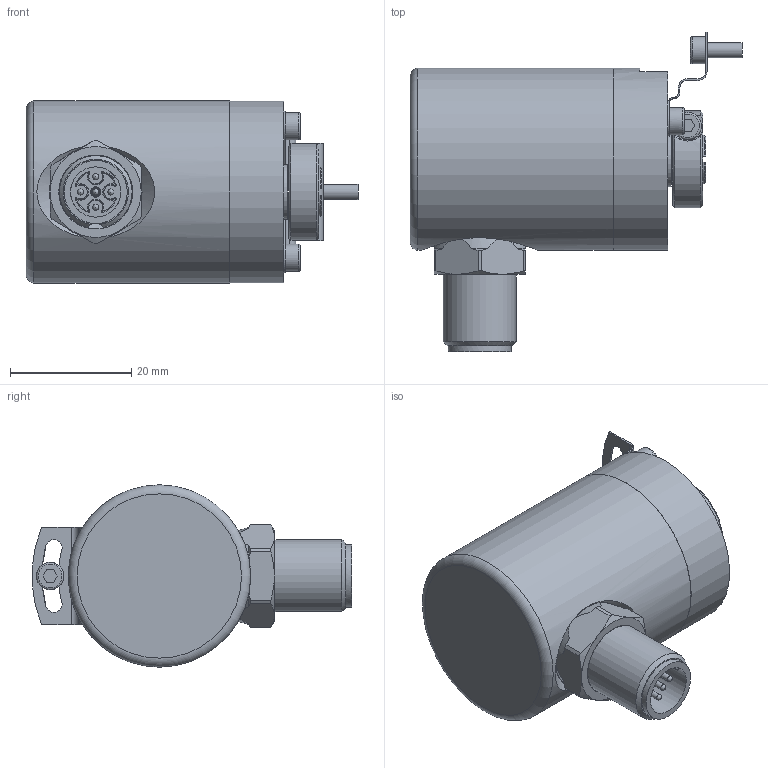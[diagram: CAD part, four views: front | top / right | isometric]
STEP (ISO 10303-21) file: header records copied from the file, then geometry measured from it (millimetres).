
FILE_DESCRIPTION(/* description */ ('Unknown'),/* implementation_level */ '2;1');
FILE_NAME(/* name */ 'D0001014745-EAM300-BF6.5Nxx.xxxx0.Areplace',/* time_stamp */ '2022-02-02T10:36:20+01:00',/* author */ ('Unknown'),/* organization */ ('Baumer'),/* preprocessor_version */ 'ST-DEVELOPER v16.7',/* originating_system */ 'Solid Edge',/* authorisation */ 'Unknown');
FILE_SCHEMA (('AUTOMOTIVE_DESIGN {1 0 10303 214 3 1 1}'));
Length unit declared in the file: millimetre
Products named in the file (1): D0001014745-EAM300-BF6.5Nxx.xxxx0.A
Bounding box: 54.75 x 52.65 x 30.08 mm (x, y, z)
Volume: 32467.2 mm3; surface area: 8422.6 mm2
Topology: 1 solids, 1 shells, 290 faces, 749 edges, 466 vertices
Faces by surface type: plane 108, cylinder 91, torus 40, cone 34, sphere 15, bspline 2
Full cylindrical faces by diameter (mm): 1 x5, 1.5 x1, 2.05 x2, 2.5 x2, 2.6 x1, 4.5 x4, 6 x1, 6.4 x1, 7.5 x1, 8 x1, 8.3 x1, 9 x1, 9.6 x1, 10 x1, 10.4 x1, 14 x1, 14.4 x1, 30 x1, 30.077 x1
Entity records: 10528 total; most frequent: CARTESIAN_POINT 1680, DIRECTION 1492, ORIENTED_EDGE 1332, EDGE_CURVE 666, AXIS2_PLACEMENT_3D 611, VERTEX_POINT 441, EDGE_LOOP 367, FACE_BOUND 367
